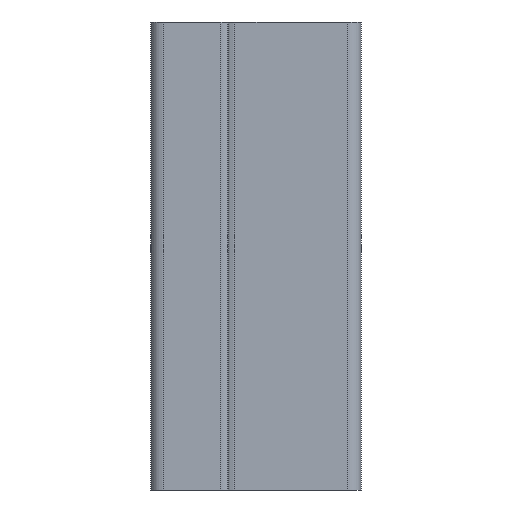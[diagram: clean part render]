
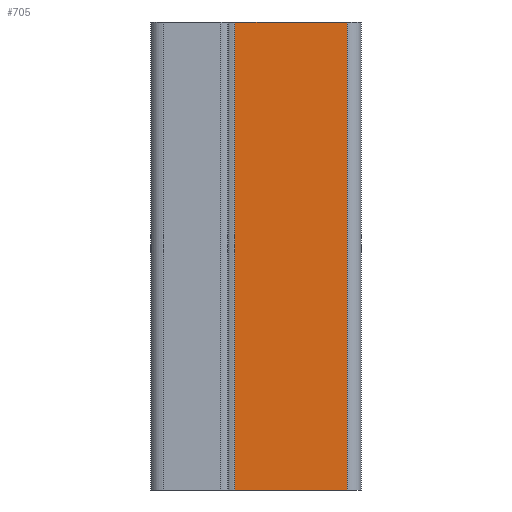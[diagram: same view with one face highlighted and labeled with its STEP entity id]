
A CAD part, left-side view. The second image highlights one B-rep face of the part: STEP entity #705.
In plain terms, the highlighted planar face has unit normal (-1, 0, 0).
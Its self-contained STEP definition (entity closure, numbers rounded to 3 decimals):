
#69 = VECTOR ( 'NONE', #175, 1000. ) ;
#78 = VECTOR ( 'NONE', #265, 1000. ) ;
#146 = LINE ( 'NONE', #698, #78 ) ;
#175 = DIRECTION ( 'NONE',  ( 0., 0., -1. ) ) ;
#255 = DIRECTION ( 'NONE',  ( 1., 0., 0. ) ) ;
#261 = VERTEX_POINT ( 'NONE', #356 ) ;
#265 = DIRECTION ( 'NONE',  ( 0., -1., 0. ) ) ;
#355 = ORIENTED_EDGE ( 'NONE', *, *, #796, .T. ) ;
#356 = CARTESIAN_POINT ( 'NONE',  ( -17.5, 9.5, 0. ) ) ;
#363 = ORIENTED_EDGE ( 'NONE', *, *, #792, .T. ) ;
#389 = CARTESIAN_POINT ( 'NONE',  ( -17.5, 9.5, 100. ) ) ;
#436 = LINE ( 'NONE', #389, #452 ) ;
#452 = VECTOR ( 'NONE', #1024, 1000. ) ;
#478 = CARTESIAN_POINT ( 'NONE',  ( -17.5, -9.5, 0. ) ) ;
#595 = AXIS2_PLACEMENT_3D ( 'NONE', #1012, #255, #898 ) ;
#678 = EDGE_CURVE ( 'NONE', #1312, #707, #146, .T. ) ;
#698 = CARTESIAN_POINT ( 'NONE',  ( -17.5, -9.5, 100. ) ) ;
#700 = DIRECTION ( 'NONE',  ( 0., -1., 0. ) ) ;
#705 = ADVANCED_FACE ( 'NONE', ( #821 ), #1013, .F. ) ;
#707 = VERTEX_POINT ( 'NONE', #1113 ) ;
#718 = LINE ( 'NONE', #1126, #69 ) ;
#735 = CARTESIAN_POINT ( 'NONE',  ( -17.5, 9.5, 100. ) ) ;
#784 = EDGE_LOOP ( 'NONE', ( #363, #1035, #1191, #355 ) ) ;
#792 = EDGE_CURVE ( 'NONE', #261, #1177, #1206, .T. ) ;
#796 = EDGE_CURVE ( 'NONE', #1312, #261, #436, .T. ) ;
#821 = FACE_OUTER_BOUND ( 'NONE', #784, .T. ) ;
#898 = DIRECTION ( 'NONE',  ( 0., 0., -1. ) ) ;
#925 = CARTESIAN_POINT ( 'NONE',  ( -17.5, -14.5, 0. ) ) ;
#1012 = CARTESIAN_POINT ( 'NONE',  ( -17.5, -9.5, 100. ) ) ;
#1013 = PLANE ( 'NONE',  #595 ) ;
#1024 = DIRECTION ( 'NONE',  ( 0., 0., -1. ) ) ;
#1035 = ORIENTED_EDGE ( 'NONE', *, *, #1204, .F. ) ;
#1113 = CARTESIAN_POINT ( 'NONE',  ( -17.5, -14.5, 100. ) ) ;
#1126 = CARTESIAN_POINT ( 'NONE',  ( -17.5, -14.5, 100. ) ) ;
#1177 = VERTEX_POINT ( 'NONE', #925 ) ;
#1191 = ORIENTED_EDGE ( 'NONE', *, *, #678, .F. ) ;
#1204 = EDGE_CURVE ( 'NONE', #707, #1177, #718, .T. ) ;
#1206 = LINE ( 'NONE', #478, #1313 ) ;
#1312 = VERTEX_POINT ( 'NONE', #735 ) ;
#1313 = VECTOR ( 'NONE', #700, 1000. ) ;
